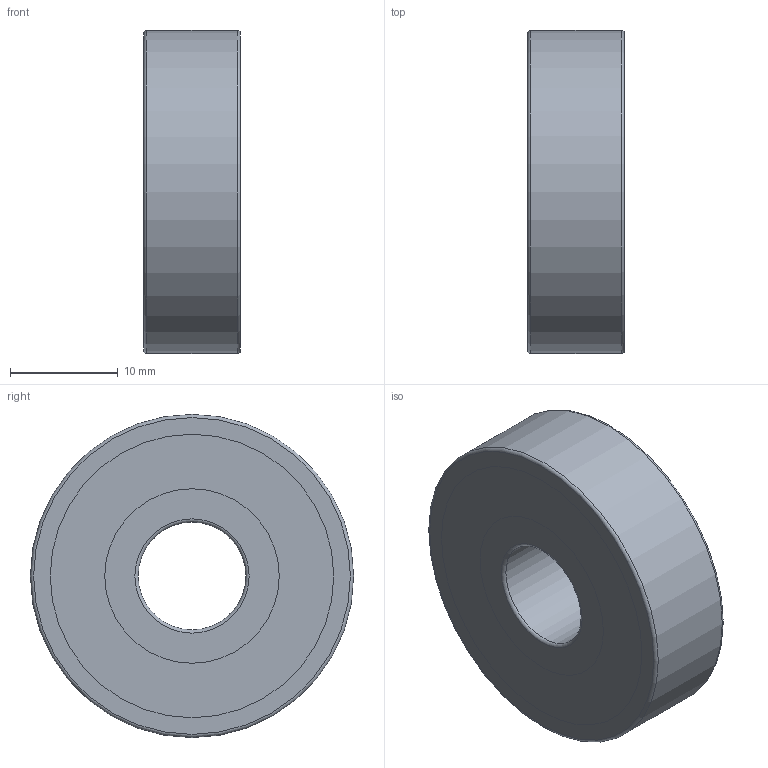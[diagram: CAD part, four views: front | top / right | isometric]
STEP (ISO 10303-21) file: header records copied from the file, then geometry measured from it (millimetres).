
FILE_DESCRIPTION(/* description */ (''),/* implementation_level */ '2;1');
FILE_NAME(/* name */ 'D:\moje\parametrické\62--\rada62---2RSR\62---2RSR\6200-2RSR.stp',/* time_stamp */ '2016-04-04T10:37:59+02:00',/* author */ ('OUBALASKO'),/* organization */ (''),/* preprocessor_version */ 'ST-DEVELOPER v15.2',/* originating_system */ 'Autodesk Inventor 2014',/* authorisation */ '');
FILE_SCHEMA (('AUTOMOTIVE_DESIGN { 1 0 10303 214 3 1 1 }'));
Length unit declared in the file: millimetre
Products named in the file (6): 6200-02-2RSR; 6200-ball; 6200-cage; 6200-01-2RSR; 6200-seal-2RSR,ZR; 6200-2RSR
Bounding box: 9 x 30 x 30 mm (x, y, z)
Volume: 4607.1 mm3; surface area: 5943.5 mm2
Topology: 14 solids, 14 shells, 104 faces, 366 edges, 240 vertices
Faces by surface type: plane 42, sphere 40, cylinder 16, torus 6
Full cylindrical faces by diameter (mm): 10 x1, 16.19 x4, 18.571 x2, 21.429 x2, 23.81 x2, 26.31 x4, 30 x1
Entity records: 2464 total; most frequent: CARTESIAN_POINT 962, DIRECTION 336, ORIENTED_EDGE 242, AXIS2_PLACEMENT_3D 168, EDGE_CURVE 121, VERTEX_POINT 90, CIRCLE 89, EDGE_LOOP 85
